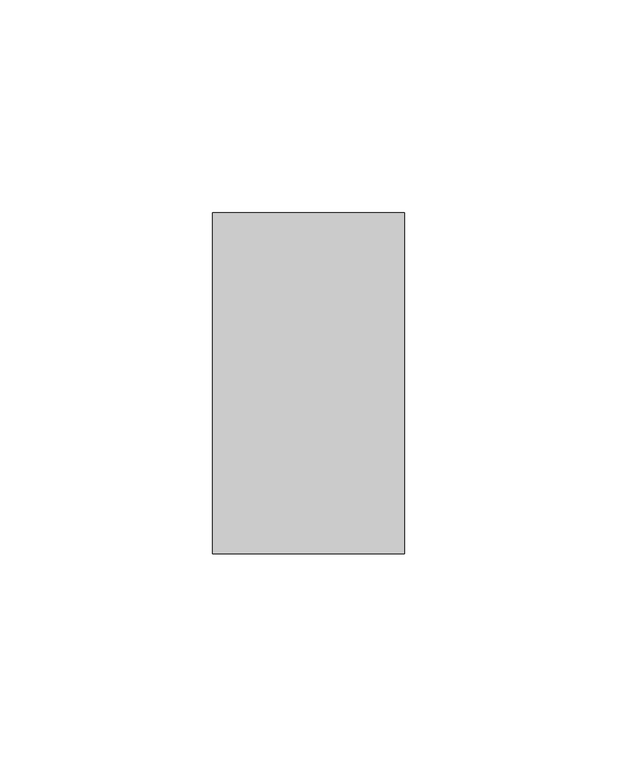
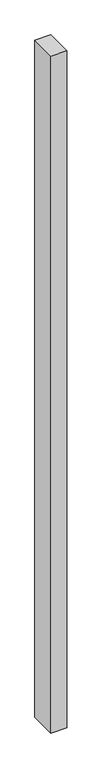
"""IFC4 building model written with IfcOpenShell, lengths in millimetres: member geometry, Obdélníková příčel : VERTI ELEMENT - vertikální."""

from ifc_helpers import new_model, si_unit, frame, origin, place, context, project, spatial, polyline, outline, extrude, source, transform, mapped, element, save


def member_5adf5f2c(model_context):
    return source(origin(), model_context, "Body", "SweptSolid", [
        extrude(outline(polyline([(22.5, 40.0), (22.5, -40.0), (-22.5, -40.0), (-22.5, 40.0), (22.5, 40.0)])), frame((0.0, 0.0, -2055.0), z_axis=(0.0, 0.0, 1.0), x_axis=(1.0, 0.0, 0.0)), (0.0, 0.0, 1.0), 2055.0),
    ])


if __name__ == "__main__":
    model = new_model("IFC4")
    model_context = context("Model", 3, world=origin())
    ifc_project = project(units=[si_unit("LENGTHUNIT", "METRE", prefix="MILLI")], contexts=[model_context])
    site = spatial("IfcSite", under=ifc_project)
    building = spatial("IfcBuilding", under=site)
    placement = place(None, origin())
    member_shape = member_5adf5f2c(model_context)
    element("IfcMember", 1, ObjectType="Obdélníková příčel : VERTI ELEMENT - vertikální", at=placement, inside=building, context=model_context, shape_type="MappedRepresentation", body=[
        mapped(member_shape, transform((0.0, 0.0, 0.0), x_axis=(1.0, 0.0, 0.0), y_axis=(0.0, 1.0, 0.0), z_axis=(0.0, 0.0, 1.0))),
    ])
    save(model, "model.ifc")
